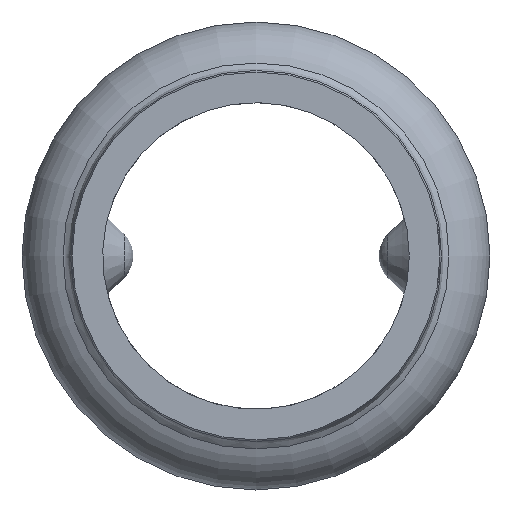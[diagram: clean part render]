
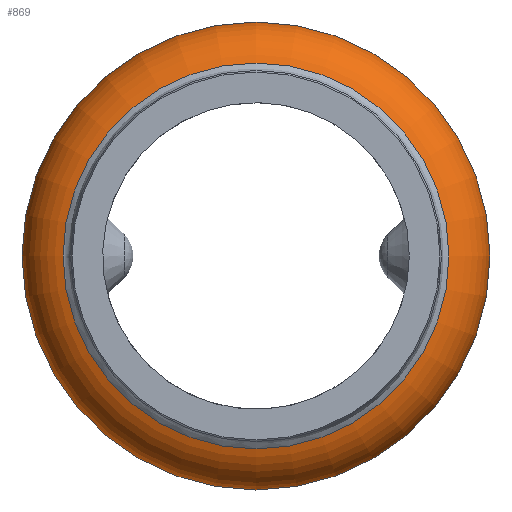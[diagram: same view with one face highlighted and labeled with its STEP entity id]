
A CAD part, left-side view. The second image highlights one B-rep face of the part: STEP entity #869.
In plain terms, the highlighted toroidal (fillet/blend) face has major radius 8.7 mm and minor radius 2.75 mm.
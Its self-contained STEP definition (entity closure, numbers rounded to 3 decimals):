
#835=CARTESIAN_POINT('',(-13.648,9.44,0.0));
#836=VERTEX_POINT('',#835);
#837=CARTESIAN_POINT('',(-13.648,0.,0.0));
#838=DIRECTION('',(1.0,0.0,0.0));
#839=DIRECTION('',(0.0,1.0,0.0));
#840=AXIS2_PLACEMENT_3D('',#837,#838,#839);
#841=CIRCLE('',#840,9.44);
#842=EDGE_CURVE('',#836,#836,#841,.T.);
#850=CARTESIAN_POINT('',(-11.0,0.,0.0));
#851=DIRECTION('',(1.0,0.,0.0));
#852=DIRECTION('',(0.0,0.0,-1.0));
#853=AXIS2_PLACEMENT_3D('',#850,#851,#852);
#854=TOROIDAL_SURFACE('',#853,8.7,2.75);
#855=CARTESIAN_POINT('',(-8.618,10.075,0.0));
#856=VERTEX_POINT('',#855);
#857=CARTESIAN_POINT('',(-8.618,0.,0.0));
#858=DIRECTION('',(1.0,0.0,0.0));
#859=DIRECTION('',(0.0,1.0,0.0));
#860=AXIS2_PLACEMENT_3D('',#857,#858,#859);
#861=CIRCLE('',#860,10.075);
#862=EDGE_CURVE('',#856,#856,#861,.T.);
#863=ORIENTED_EDGE('',*,*,#862,.F.);
#864=EDGE_LOOP('',(#863));
#865=FACE_OUTER_BOUND('',#864,.T.);
#866=ORIENTED_EDGE('',*,*,#842,.T.);
#867=EDGE_LOOP('',(#866));
#868=FACE_BOUND('',#867,.T.);
#869=ADVANCED_FACE('',(#865,#868),#854,.T.);
